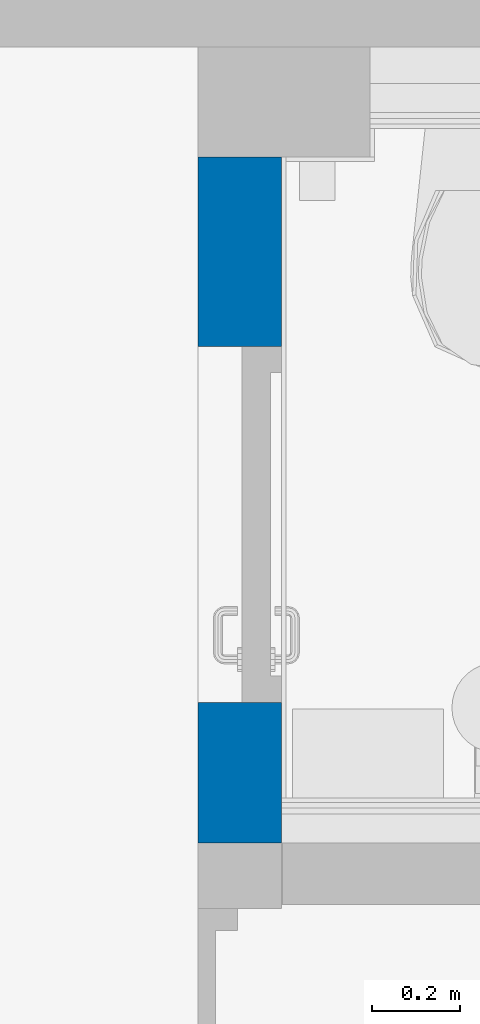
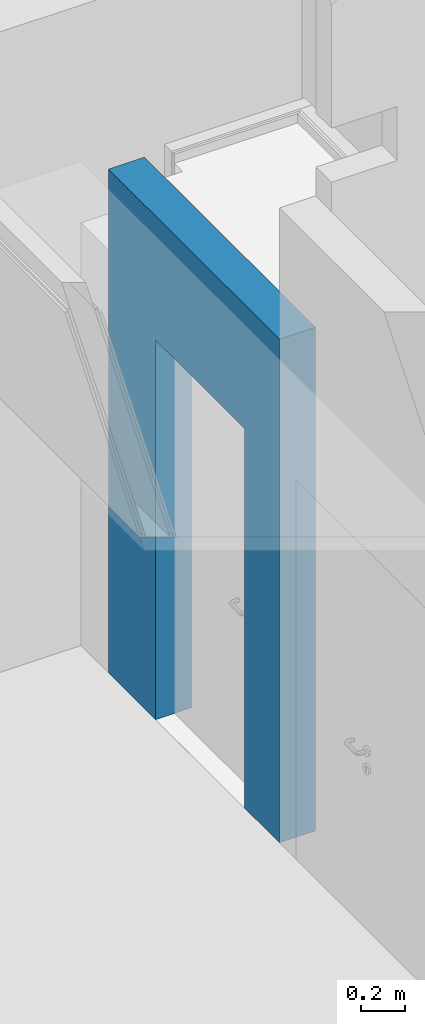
# One storey, part 124 of 301: 1 wall, 1 opening.
"""IFC2X3 building model written with IfcOpenShell, lengths in millimetres."""

from ifc_helpers import new_model, entity, si_unit, converted_unit, derived_unit, money_unit, direction, frame, origin_with_axes, place, context, subcontext, project, spatial, faceted_brep, material, type_object, element, save


model = new_model("IFC2X3")

# Units and contexts
model_context = context("Model", 3, precision=0.01, world=origin_with_axes(), true_north=direction((0.0, 1.0)))
body_context = subcontext(model_context, "Body", "Model", "MODEL_VIEW")
ifc_project = project(units=[si_unit("LENGTHUNIT", "METRE", prefix="MILLI"), si_unit("AREAUNIT", "SQUARE_METRE"), si_unit("VOLUMEUNIT", "CUBIC_METRE"), converted_unit("PLANEANGLEUNIT", "DEGREE", entity("IfcPlaneAngleMeasure", 0.0174532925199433), si_unit("PLANEANGLEUNIT", "RADIAN"), dimensions=[0, 0, 0, 0, 0, 0, 0]), money_unit("EUR"), converted_unit("TIMEUNIT", "Year", entity("IfcTimeMeasure", 31557600.0), si_unit("TIMEUNIT", "SECOND"), dimensions=[0, 0, 1, 0, 0, 0, 0]), si_unit("MASSUNIT", "GRAM", prefix="KILO"), si_unit("THERMODYNAMICTEMPERATUREUNIT", "DEGREE_CELSIUS"), si_unit("LUMINOUSINTENSITYUNIT", "LUMEN"), si_unit("ENERGYUNIT", "JOULE", prefix="MEGA"), derived_unit("THERMALCONDUCTANCEUNIT", [(si_unit("POWERUNIT", "WATT"), 1), (si_unit("LENGTHUNIT", "METRE"), -1), (si_unit("THERMODYNAMICTEMPERATUREUNIT", "KELVIN"), -1)]), derived_unit("SPECIFICHEATCAPACITYUNIT", [(si_unit("ENERGYUNIT", "JOULE"), 1), (si_unit("MASSUNIT", "GRAM", prefix="KILO"), -1), (si_unit("THERMODYNAMICTEMPERATUREUNIT", "KELVIN"), -1)]), derived_unit("MASSDENSITYUNIT", [(si_unit("MASSUNIT", "GRAM", prefix="KILO"), 1), (si_unit("VOLUMEUNIT", "CUBIC_METRE"), -1)])], contexts=[model_context])

# Site, building, storey
site_placement = place(None, frame((0.0, 0.0, 8650.0), z_axis=(0.0, 0.0, 1.0), x_axis=(1.0, 0.0, 0.0)))
site = spatial("IfcSite", under=ifc_project, at=site_placement, Name="43301:001:0844", CompositionType="ELEMENT")
building_placement = place(site_placement, origin_with_axes())
building = spatial("IfcBuilding", under=site, at=building_placement, Name="Kuressaare Ametikooli tuulikute mehaanikute õppekorpus", CompositionType="ELEMENT")
storey_placement = place(building_placement, origin_with_axes())
storey = spatial("IfcBuildingStorey", under=building, at=storey_placement, Name="1.korrus", CompositionType="ELEMENT", Elevation=0.0)

# Wall, opening
ifc_material = material(Name="Betoonplokk")
wall_type = type_object("IfcWallType", Name="SS-1.1 190", PredefinedType="NOTDEFINED")
wall_placement = place(storey_placement, frame((100345.6546914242, 25533.06742214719, 0.0), z_axis=(0.0, 0.0, 1.0), x_axis=(-0.0001147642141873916, -0.9999999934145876, 0.0)))
wall = element("IfcWall", 1, at=wall_placement, inside=storey, type_object=wall_type, material=ifc_material, Name="Sisesein", context=body_context, shape_type="Brep", body=[
    faceted_brep([(1240.013268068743, 189.9999999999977, 0.0), (1240.013268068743, 189.9999999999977, 2110.0), (430.0132680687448, 189.9999999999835, 2110.0), (430.0132680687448, 189.9999999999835, 0.0), (0.0, 189.9999999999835, 0.0), (0.0, 189.9999999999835, 2600.0), (430.013268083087, 189.9999999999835, 2600.0), (430.013268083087, 189.9999999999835, 2650.0), (0.0, 189.9999999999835, 2650.0), (0.0, 189.9999999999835, 2800.0), (1558.997789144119, 189.9999999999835, 2800.0), (1558.997789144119, 189.9999999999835, 0.0), (1240.013268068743, 0.0, 0.0), (1240.013268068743, 0.0, 2110.0), (430.0132680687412, 0.0, 2110.0), (430.0132680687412, 0.0, 0.0), (0.0, 0.0, 0.0), (0.0, 0.0, 2800.0), (0.0, 189.9506498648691, 2650.0), (0.0, 189.9506498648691, 2600.0), (1558.997789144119, 0.0, 2800.0), (1558.997789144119, 0.0, 0.0)], [[[0, 1, 2, 3, 4, 5, 6, 7, 8, 9, 10, 11]], [[1, 0, 12, 13]], [[2, 1, 13, 14]], [[3, 2, 14, 15]], [[3, 15, 16, 4]], [[17, 9, 8, 18, 19, 5, 4, 16]], [[19, 6, 5]], [[19, 18, 7, 6]], [[7, 18, 8]], [[17, 20, 10, 9]], [[10, 20, 21, 11]], [[12, 0, 11, 21]], [[13, 12, 21, 20, 17, 16, 15, 14]]]),
])
opening_placement = place(wall_placement, frame((835.0132680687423, 0.0, 0.0), z_axis=(0.0, 0.0, 1.0), x_axis=(1.0, 0.0, 0.0)))
element("IfcOpeningElement", 2, at=opening_placement, cuts=wall, Name="TU8", context=body_context, shape_type="Brep", body=[
    faceted_brep([(-404.9999999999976, -1.178917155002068, 2110.0), (-404.9999999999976, -1.178917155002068, 0.0), (404.9999999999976, -1.178917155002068, 0.0), (404.9999999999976, -1.178917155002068, 2110.0), (-404.9999999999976, 191.1789171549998, 2110.0), (-404.9999999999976, 191.1789171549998, 0.0), (405.0000000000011, 191.1789171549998, 0.0), (405.0000000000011, 191.1789171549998, 2110.0)], [[[0, 1, 2, 3]], [[4, 5, 1, 0]], [[5, 6, 2, 1]], [[6, 7, 3, 2]], [[7, 4, 0, 3]], [[6, 5, 4, 7]]]),
])

save(model, "model.ifc")
